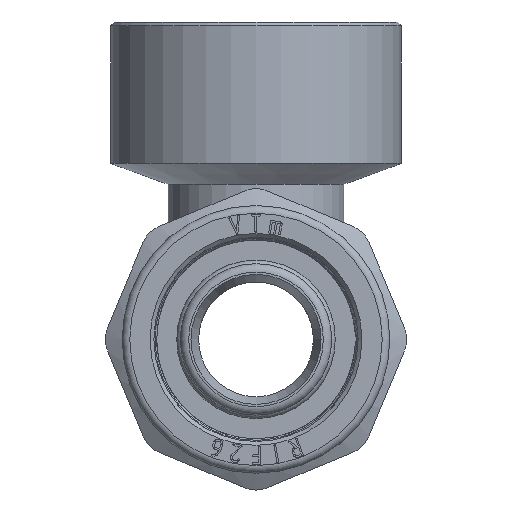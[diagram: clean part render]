
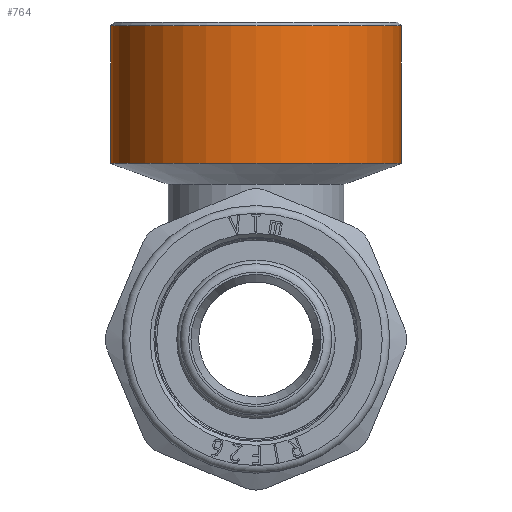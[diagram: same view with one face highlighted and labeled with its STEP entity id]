
A CAD part, front view. The second image highlights one B-rep face of the part: STEP entity #764.
In plain terms, the highlighted cylindrical face has radius 19 mm (diameter 38 mm), a full revolution.
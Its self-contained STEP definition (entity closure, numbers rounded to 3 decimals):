
#764=ADVANCED_FACE('',(#5846,#5848),#5850,.T.);
#5846=FACE_OUTER_BOUND('',#5847,.T.);
#5847=EDGE_LOOP('',(#11176));
#5848=FACE_OUTER_BOUND('',#5849,.T.);
#5849=EDGE_LOOP('',(#11177));
#5850=CYLINDRICAL_SURFACE('',#5851,19.);
#5851=AXIS2_PLACEMENT_3D('',#5852,#5853,#5854);
#5852=CARTESIAN_POINT('',(0.,0.,23.));
#5853=DIRECTION('',(0.,0.,1.));
#5854=DIRECTION('',(-1.,0.,0.));
#11176=ORIENTED_EDGE('',*,*,#13294,.F.);
#11177=ORIENTED_EDGE('',*,*,#13219,.F.);
#13219=EDGE_CURVE('',#16518,#16518,#16519,.F.);
#13294=EDGE_CURVE('',#16632,#16632,#16633,.T.);
#16518=VERTEX_POINT('',#27983);
#16519=CIRCLE('',#27984,19.);
#16632=VERTEX_POINT('',#28250);
#16633=CIRCLE('',#28251,19.);
#27983=CARTESIAN_POINT('',(-19.,0.,23.));
#27984=AXIS2_PLACEMENT_3D('',#27985,#27986,#27987);
#27985=CARTESIAN_POINT('',(0.,0.,23.));
#27986=DIRECTION('',(0.,0.,1.));
#27987=DIRECTION('',(-1.,0.,0.));
#28250=CARTESIAN_POINT('',(-19.,0.,41.));
#28251=AXIS2_PLACEMENT_3D('',#28252,#28253,#28254);
#28252=CARTESIAN_POINT('',(0.,0.,41.));
#28253=DIRECTION('',(0.,0.,1.));
#28254=DIRECTION('',(-1.,0.,0.));
